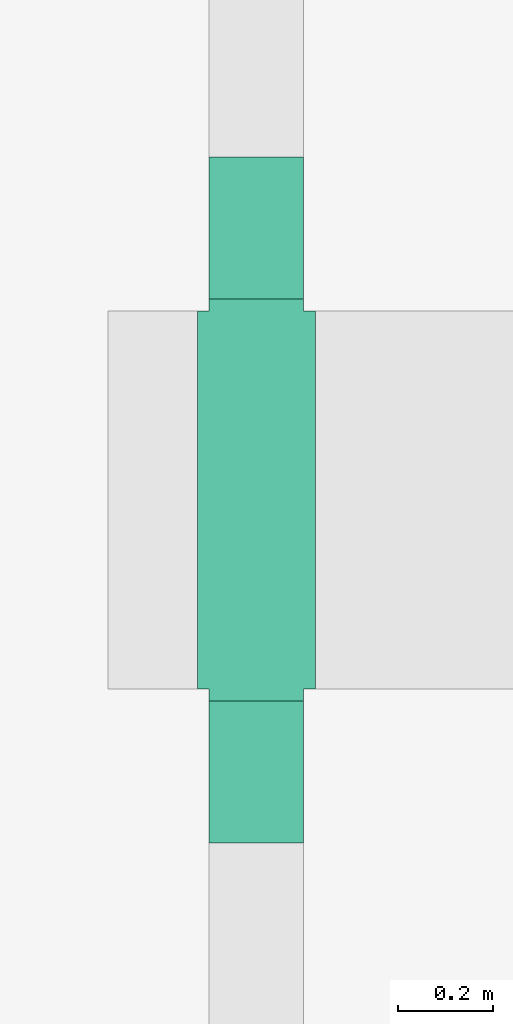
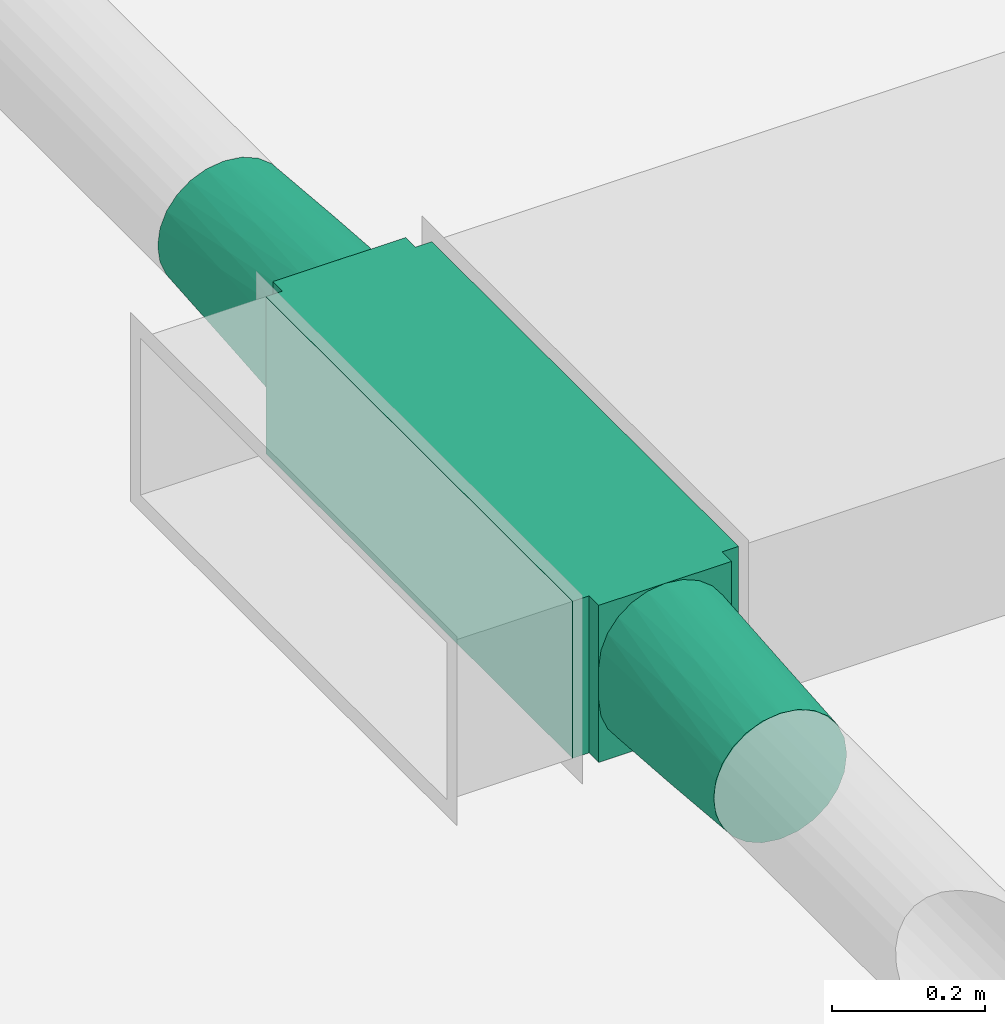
# One storey, part 267 of 302: 3 flow fittings.
"""IFC2X3 building model written with IfcOpenShell, lengths in metres."""

from ifc_helpers import new_model, entity, si_unit, converted_unit, derived_unit, direction, frame, origin, place, context, subcontext, project, spatial, polyline, outline, extrude, faceted_brep, source, transform, mapped, material, type_object, type_shapes, element, save


model = new_model("IFC2X3")

# Units and contexts
model_context = context("Model", 3, precision=1e-05, world=origin(), true_north=direction((6.12303176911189e-17, 1.0)))
body_context = subcontext(model_context, "Body", "Model", "MODEL_VIEW")
ifc_project = project(units=[si_unit("LENGTHUNIT", "METRE"), si_unit("AREAUNIT", "SQUARE_METRE"), si_unit("VOLUMEUNIT", "CUBIC_METRE"), converted_unit("PLANEANGLEUNIT", "DEGREE", entity("IfcRatioMeasure", 0.0174532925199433), si_unit("PLANEANGLEUNIT", "RADIAN"), dimensions=[0, 0, 0, 0, 0, 0, 0]), si_unit("MASSUNIT", "GRAM", prefix="KILO"), derived_unit("MASSDENSITYUNIT", [(si_unit("MASSUNIT", "GRAM", prefix="KILO"), 1), (si_unit("LENGTHUNIT", "METRE"), -3)]), derived_unit("MOMENTOFINERTIAUNIT", [(si_unit("LENGTHUNIT", "METRE"), 4)]), si_unit("TIMEUNIT", "SECOND"), si_unit("FREQUENCYUNIT", "HERTZ"), si_unit("THERMODYNAMICTEMPERATUREUNIT", "DEGREE_CELSIUS"), derived_unit("THERMALTRANSMITTANCEUNIT", [(si_unit("MASSUNIT", "GRAM", prefix="KILO"), 1), (si_unit("THERMODYNAMICTEMPERATUREUNIT", "KELVIN"), -1), (si_unit("TIMEUNIT", "SECOND"), -3)]), derived_unit("VOLUMETRICFLOWRATEUNIT", [(si_unit("LENGTHUNIT", "METRE"), 3), (si_unit("TIMEUNIT", "SECOND"), -1)]), si_unit("ELECTRICCURRENTUNIT", "AMPERE"), si_unit("ELECTRICVOLTAGEUNIT", "VOLT"), si_unit("POWERUNIT", "WATT"), si_unit("FORCEUNIT", "NEWTON", prefix="KILO"), si_unit("ILLUMINANCEUNIT", "LUX"), si_unit("LUMINOUSFLUXUNIT", "LUMEN"), si_unit("LUMINOUSINTENSITYUNIT", "CANDELA"), derived_unit("USERDEFINED", [(si_unit("MASSUNIT", "GRAM", prefix="KILO"), -1), (si_unit("LENGTHUNIT", "METRE"), -2), (si_unit("TIMEUNIT", "SECOND"), 3), (si_unit("LUMINOUSFLUXUNIT", "LUMEN"), 1)]), derived_unit("LINEARVELOCITYUNIT", [(si_unit("LENGTHUNIT", "METRE"), 1), (si_unit("TIMEUNIT", "SECOND"), -1)]), si_unit("PRESSUREUNIT", "PASCAL"), derived_unit("USERDEFINED", [(si_unit("LENGTHUNIT", "METRE"), -2), (si_unit("MASSUNIT", "GRAM", prefix="KILO"), 1), (si_unit("TIMEUNIT", "SECOND"), -2)]), derived_unit("LINEARFORCEUNIT", [(si_unit("MASSUNIT", "GRAM", prefix="KILO"), 1), (si_unit("LENGTHUNIT", "METRE"), 1), (si_unit("TIMEUNIT", "SECOND"), -2), (si_unit("LENGTHUNIT", "METRE"), -1)]), derived_unit("PLANARFORCEUNIT", [(si_unit("MASSUNIT", "GRAM", prefix="KILO"), 1), (si_unit("LENGTHUNIT", "METRE"), 1), (si_unit("TIMEUNIT", "SECOND"), -2), (si_unit("LENGTHUNIT", "METRE"), -2)])], contexts=[model_context])

# Site, building, storey
site_placement = place(None, origin())
site = spatial("IfcSite", under=ifc_project, at=site_placement, Name="Default", CompositionType="ELEMENT")
building_placement = place(site_placement, origin())
building = spatial("IfcBuilding", under=site, at=building_placement, CompositionType="ELEMENT")
storey_placement = place(building_placement, frame((0.0, 0.0, -1.3)))
storey = spatial("IfcBuildingStorey", under=building, at=storey_placement, Name="00_EG", CompositionType="ELEMENT", Elevation=-1.3)

# Flow fittings
ifc_material = material(Name="<Unnamed>")
duct_fitting_type_1 = type_object("IfcDuctFittingType", Name="STR_RCT_Cross:STR_Cross_RCT_GS_RA", PredefinedType="NOTDEFINED", material=ifc_material)
shared_shape_1 = source(origin(), body_context, "Body", "SweptSolid", [
    extrude(outline(polyline([(-0.424999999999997, 0.0999999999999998), (-0.424999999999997, -0.1), (-0.400000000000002, -0.1), (-0.400000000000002, -0.124999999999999), (0.399999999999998, -0.124999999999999), (0.399999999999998, -0.100000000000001), (0.425000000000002, -0.100000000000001), (0.425000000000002, 0.0999999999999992), (0.399999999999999, 0.0999999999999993), (0.399999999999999, 0.125000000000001), (-0.400000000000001, 0.125000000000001), (-0.400000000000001, 0.0999999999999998), (-0.424999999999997, 0.0999999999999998)])), frame((0.0, 0.0, -0.125000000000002), z_axis=(0.0, 0.0, -1.0), x_axis=(0.0, 1.0, 0.0)), (0.0, 0.0, -1.0), 0.25),
])
type_shapes(duct_fitting_type_1, [shared_shape_1])
flow_fitting_placement = place(storey_placement, frame((-263.476224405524, 38.6082258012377, 4.91), z_axis=(0.0, 0.0, 1.0), x_axis=(-1.0, 0.0, 0.0)))
element("IfcFlowFitting", 1, at=flow_fitting_placement, inside=storey, type_object=duct_fitting_type_1, material=ifc_material, Name="STR_RCT_Cross:STR_Cross_RCT_GS_RA", ObjectType="STR_RCT_Cross:STR_Cross_RCT_GS_RA", context=body_context, shape_type="MappedRepresentation", body=[
    mapped(shared_shape_1, transform((0.0, 0.0, 0.0), scale=1.0)),
])
duct_fitting_type_2 = type_object("IfcDuctFittingType", Name="STR_OVL_Transition:STR_Transition_OVL_GS_EA", PredefinedType="NOTDEFINED", material=ifc_material)
shared_shape_2 = source(origin(), body_context, "Body", "Brep", [
    faceted_brep([(0.300000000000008, 0.0999999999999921, 0.00158749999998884), (0.300000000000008, 0.0966466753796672, 0.0270585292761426), (0.300000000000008, 0.0868152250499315, 0.050793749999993), (0.300000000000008, 0.0711756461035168, 0.0711756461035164), (0.300000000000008, 0.0507937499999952, 0.0868152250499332), (0.300000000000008, 0.0270585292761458, 0.0966466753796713), (0.300000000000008, 0.00158749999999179, 0.0999999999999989), (0.300000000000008, -0.00158750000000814, 0.0999999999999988), (0.300000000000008, -0.0270585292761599, 0.0966466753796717), (0.300000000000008, -0.0507937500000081, 0.0868152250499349), (0.300000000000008, -0.0711756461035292, 0.07117564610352), (0.300000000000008, -0.0868152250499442, 0.0507937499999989), (0.300000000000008, -0.0966466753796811, 0.0270585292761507), (0.300000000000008, -0.100000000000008, 0.00158749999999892), (0.300000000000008, -0.100000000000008, -0.00158750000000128), (0.300000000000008, -0.0966466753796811, -0.0270585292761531), (0.300000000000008, -0.0868152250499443, -0.0507937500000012), (0.300000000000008, -0.0711756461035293, -0.0711756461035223), (0.300000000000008, -0.0507937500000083, -0.0868152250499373), (0.300000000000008, -0.0270585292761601, -0.0966466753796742), (0.300000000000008, -0.00158750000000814, -0.100000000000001), (0.300000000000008, 0.0015874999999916, -0.100000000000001), (0.300000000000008, 0.0270585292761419, -0.0966466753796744), (0.300000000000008, 0.0507937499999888, -0.0868152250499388), (0.300000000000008, 0.0711756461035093, -0.0711756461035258), (0.300000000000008, 0.0868152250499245, -0.0507937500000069), (0.300000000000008, 0.0966466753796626, -0.0270585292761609), (0.300000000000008, 0.0999999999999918, -0.00158750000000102), (0.0, 0.00158749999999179, -0.125000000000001), (0.0, -0.00158750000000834, -0.125000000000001), (0.0, -0.0270585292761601, -0.121646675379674), (0.0, -0.0507937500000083, -0.111815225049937), (0.0, -0.0711756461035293, -0.0961756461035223), (0.0, -0.0868152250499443, -0.0757937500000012), (0.0, -0.0966466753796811, -0.0520585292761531), (0.0, -0.100000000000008, -0.026587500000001), (0.0, -0.100000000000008, 0.0265874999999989), (0.0, -0.0966466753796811, 0.0520585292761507), (0.0, -0.0868152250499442, 0.0757937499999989), (0.0, -0.0711756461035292, 0.0961756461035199), (0.0, -0.0507937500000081, 0.111815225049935), (0.0, -0.0270585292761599, 0.121646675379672), (0.0, -0.00158750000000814, 0.124999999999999), (0.0, 0.00158749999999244, 0.124999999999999), (0.0, 0.0270585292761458, 0.121646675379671), (0.0, 0.0507937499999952, 0.111815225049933), (0.0, 0.0711756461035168, 0.0961756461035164), (0.0, 0.0868152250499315, 0.0757937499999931), (0.0, 0.0966466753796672, 0.0520585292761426), (0.0, 0.0999999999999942, 0.026587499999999), (0.0, 0.0999999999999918, -0.0265875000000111), (0.0, 0.0966466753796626, -0.052058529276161), (0.0, 0.0868152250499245, -0.0757937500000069), (0.0, 0.0711756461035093, -0.0961756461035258), (0.0, 0.0507937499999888, -0.111815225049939), (0.0, 0.0270585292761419, -0.121646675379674), (0.154247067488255, -0.0203412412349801, 0.110342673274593), (0.145752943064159, -0.0981965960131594, 0.03319516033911), (0.107489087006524, -0.00158750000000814, 0.116042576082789), (0.149999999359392, -0.0614972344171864, 0.0921633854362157), (0.15000000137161, -0.0392483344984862, 0.105008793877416), (0.150000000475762, -0.0796633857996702, 0.0739972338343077), (0.192510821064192, -0.100000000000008, 0.0105449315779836), (0.149999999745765, -0.0925087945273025, 0.0517483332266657), (0.107489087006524, -0.100000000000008, -0.0176300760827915), (0.154247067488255, -0.0981965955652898, -0.0324873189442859), (0.145752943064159, -0.0203412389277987, -0.111050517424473), (0.149999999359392, -0.0796633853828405, -0.0739972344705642), (0.15000000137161, -0.0925087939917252, -0.0517483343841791), (0.150000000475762, -0.0614972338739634, -0.0921633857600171), (0.192511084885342, -0.00158750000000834, -0.10895740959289), (0.149999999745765, -0.0392483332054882, -0.105008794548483), (0.107489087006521, 0.0015874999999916, -0.116042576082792), (0.154247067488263, 0.0203412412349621, -0.110342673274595), (0.145752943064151, 0.0981965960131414, -0.0331951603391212), (0.149999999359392, 0.0614972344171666, -0.0921633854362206), (0.15000000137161, 0.0392483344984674, -0.105008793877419), (0.150000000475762, 0.0796633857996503, -0.0739972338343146), (0.192510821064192, 0.0999999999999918, -0.0105449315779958), (0.149999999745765, 0.0925087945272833, -0.0517483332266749), (0.107489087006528, 0.0999999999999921, 0.0176300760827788), (0.154247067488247, 0.0981965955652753, 0.0324873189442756), (0.145752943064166, 0.0203412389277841, 0.11105051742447), (0.149999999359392, 0.079663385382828, 0.0739972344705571), (0.15000000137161, 0.0925087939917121, 0.0517483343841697), (0.150000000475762, 0.0614972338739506, 0.0921633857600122), (0.192510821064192, 0.00158749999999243, 0.108957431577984), (0.149999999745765, 0.0392483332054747, 0.105008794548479)], [[[0, 1, 2, 3, 4, 5, 6, 7, 8, 9, 10, 11, 12, 13, 14, 15, 16, 17, 18, 19, 20, 21, 22, 23, 24, 25, 26, 27]], [[28, 29, 30, 31, 32, 33, 34, 35, 36, 37, 38, 39, 40, 41, 42, 43, 44, 45, 46, 47, 48, 49, 50, 51, 52, 53, 54, 55]], [[56, 42, 41]], [[36, 57, 37]], [[56, 7, 58, 42]], [[40, 39, 59]], [[41, 60, 56]], [[59, 60, 40]], [[61, 59, 39]], [[41, 40, 60]], [[8, 56, 60]], [[10, 9, 59]], [[9, 60, 59]], [[57, 36, 62, 13]], [[38, 37, 63]], [[63, 61, 38]], [[12, 57, 13]], [[12, 63, 57]], [[9, 8, 60]], [[10, 61, 11]], [[12, 11, 63]], [[63, 11, 61]], [[37, 57, 63]], [[61, 10, 59]], [[61, 39, 38]], [[7, 56, 8]], [[35, 64, 14, 13, 62, 36]], [[65, 35, 34]], [[29, 66, 30]], [[65, 14, 64, 35]], [[33, 32, 67]], [[34, 68, 65]], [[67, 68, 33]], [[69, 67, 32]], [[34, 33, 68]], [[15, 65, 68]], [[17, 16, 67]], [[16, 68, 67]], [[66, 29, 70, 20]], [[31, 30, 71]], [[71, 69, 31]], [[19, 66, 20]], [[19, 71, 66]], [[16, 15, 68]], [[17, 69, 18]], [[19, 18, 71]], [[71, 18, 69]], [[30, 66, 71]], [[69, 17, 67]], [[69, 32, 31]], [[14, 65, 15]], [[28, 72, 21, 20, 70, 29]], [[73, 28, 55]], [[50, 74, 51]], [[73, 21, 72, 28]], [[54, 53, 75]], [[55, 76, 73]], [[75, 76, 54]], [[77, 75, 53]], [[55, 54, 76]], [[22, 73, 76]], [[24, 23, 75]], [[23, 76, 75]], [[74, 50, 78, 27]], [[52, 51, 79]], [[79, 77, 52]], [[26, 74, 27]], [[26, 79, 74]], [[23, 22, 76]], [[24, 77, 25]], [[26, 25, 79]], [[79, 25, 77]], [[51, 74, 79]], [[77, 24, 75]], [[77, 53, 52]], [[21, 73, 22]], [[49, 80, 0, 27, 78, 50]], [[81, 49, 48]], [[43, 82, 44]], [[81, 0, 80, 49]], [[47, 46, 83]], [[48, 84, 81]], [[83, 84, 47]], [[85, 83, 46]], [[48, 47, 84]], [[1, 81, 84]], [[3, 2, 83]], [[2, 84, 83]], [[82, 43, 86, 6]], [[45, 44, 87]], [[87, 85, 45]], [[5, 82, 6]], [[5, 87, 82]], [[2, 1, 84]], [[3, 85, 4]], [[5, 4, 87]], [[87, 4, 85]], [[44, 82, 87]], [[85, 3, 83]], [[85, 46, 45]], [[0, 81, 1]], [[42, 58, 7, 6, 86, 43]]]),
])
type_shapes(duct_fitting_type_2, [shared_shape_2])
for number, where, z_axis, x_axis in (
    (2, (-263.476224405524, 39.0332258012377, 4.91), (0.0, 0.0, 1.0), (0.0, 1.0, 0.0)),
    (3, (-263.476224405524, 38.1832258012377, 4.91), (0.0, 0.0, 1.0), (0.0, -1.0, 0.0)),
):
    element("IfcFlowFitting", number, at=place(storey_placement, frame(where, z_axis=z_axis, x_axis=x_axis)), inside=storey, type_object=duct_fitting_type_2, material=ifc_material, Name="STR_OVL_Transition:STR_Transition_OVL_GS_EA", ObjectType="STR_OVL_Transition:STR_Transition_OVL_GS_EA", context=body_context, shape_type="MappedRepresentation", body=[
        mapped(shared_shape_2, transform((0.0, 0.0, 0.0), scale=1.0)),
    ])

save(model, "model.ifc")
